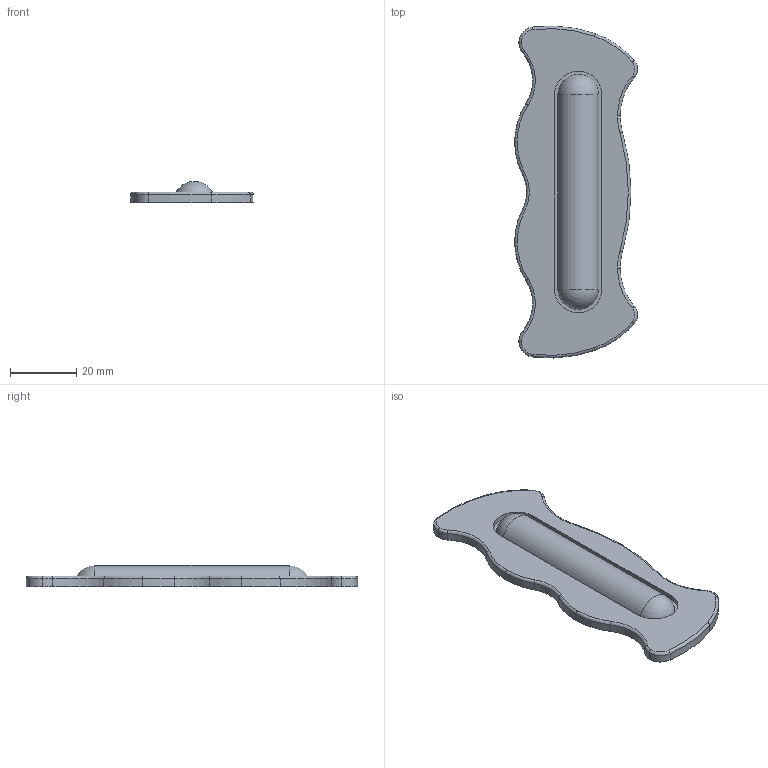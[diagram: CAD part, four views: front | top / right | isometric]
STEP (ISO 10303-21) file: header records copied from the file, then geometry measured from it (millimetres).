
FILE_DESCRIPTION (( 'STEP AP203' ), '1' );
FILE_NAME ('hardware models.STEP', '2017-09-13T19:37:58', ( '' ), ( '' ), 'SwSTEP 2.0', 'SolidWorks 2015', '' );
FILE_SCHEMA (( 'CONFIG_CONTROL_DESIGN' ));
Length unit declared in the file: inch
Products named in the file (1): hardware models
Bounding box: 37.09 x 100.28 x 6.35 mm (x, y, z)
Volume: 10960.7 mm3; surface area: 7432.2 mm2
Topology: 1 solids, 1 shells, 54 faces, 132 edges, 80 vertices
Faces by surface type: cylinder 25, torus 22, plane 5, sphere 2
Entity records: 1671 total; most frequent: DIRECTION 334, CARTESIAN_POINT 261, ORIENTED_EDGE 256, AXIS2_PLACEMENT_3D 151, EDGE_CURVE 128, CIRCLE 96, VERTEX_POINT 78, EDGE_LOOP 56
